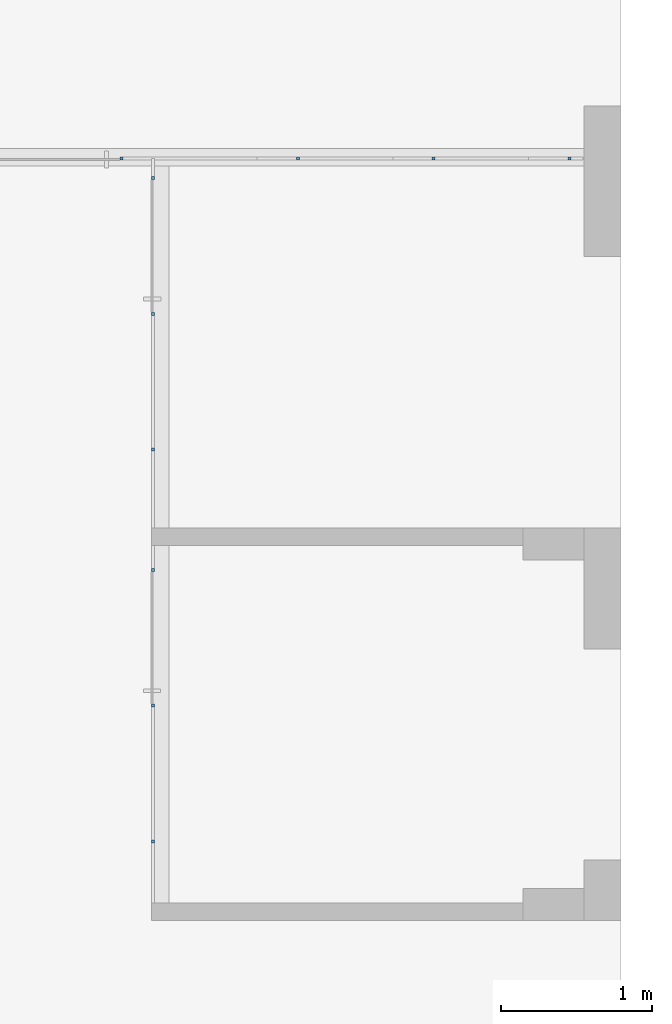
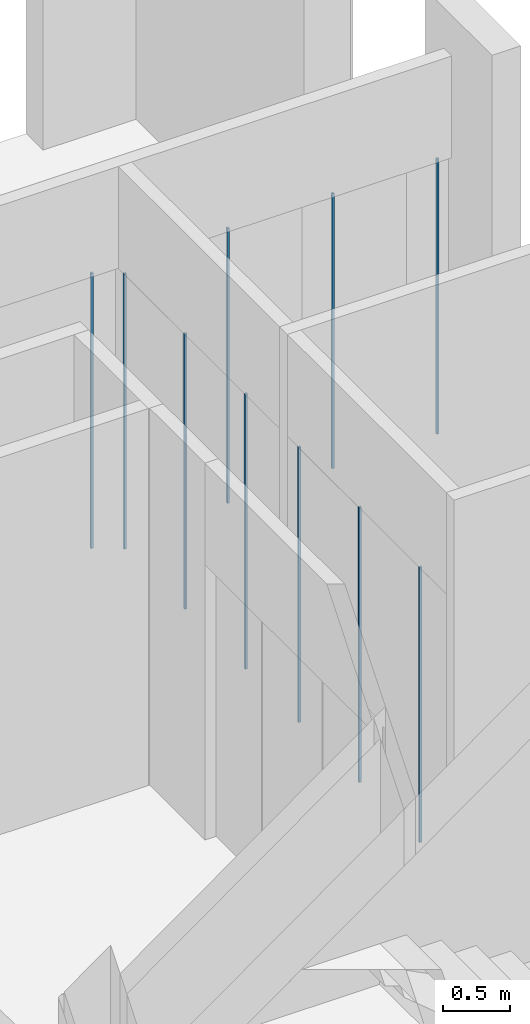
# One storey, part 3 of 14: 10 members, 3 elements without a shape of their own.
"""IFC2X3 building model written with IfcOpenShell, lengths in millimetres."""

import ifcopenshell
import ifcopenshell.guid

model = None  # the IFC model being written
_history = None  # IfcOwnerHistory: only IFC2X3 demands one
_inside = {}  # id of a spatial element -> (the spatial element, [elements in it])
_under = {}  # id of a project, library or spatial element -> (it, [spatial elements below it])
_declared = {}  # id of a project -> (the project, [libraries it declares])
_typed = {}  # id of a type object -> (the type object, [elements of that type])
_made_of = {}  # id of a material, layer set ... -> (it, [elements and type objects made of it])


def new_model(schema):
    """Start an empty IFC model of exactly this schema.

    Asked for "IFC4X3", IfcOpenShell would pick the latest addendum, in which some entities
    have other attributes; the version numbers below select the first issue.
    IFC2X3 requires an IfcOwnerHistory on every rooted entity: one is made here for all.
    """
    global model, _history
    if schema == "IFC4X3":
        model = ifcopenshell.file(schema_version=(4, 3, 0, 0))
    else:
        model = ifcopenshell.file(schema=schema)
    _inside.clear()
    _under.clear()
    _declared.clear()
    _typed.clear()
    _made_of.clear()
    _history = None
    if model.schema == "IFC2X3":
        org = make("IfcOrganization", Name="unknown")
        user = make(
            "IfcPersonAndOrganization",
            ThePerson=make("IfcPerson", FamilyName="unknown"),
            TheOrganization=org,
        )
        app = make(
            "IfcApplication",
            ApplicationDeveloper=org,
            Version="unknown",
            ApplicationFullName="unknown",
            ApplicationIdentifier="unknown",
        )
        _history = make(
            "IfcOwnerHistory",
            OwningUser=user,
            OwningApplication=app,
            ChangeAction="ADDED",
            CreationDate=0,
        )
    return model


def make(cls, **values):
    """One entity of the class cls with the attributes given. An attribute that is None is left unset."""
    return model.create_entity(
        cls, **{name: value for name, value in values.items() if value is not None}
    )


def entity(cls, *values):
    """Any entity or typed value of the class cls, its attributes in the order of the schema. None: left unset."""
    e = model.create_entity(cls)
    for i, value in enumerate(values):
        if value is not None:
            e[i] = value
    return e


def rooted(cls, **values):
    """An entity with a GlobalId (a new one), such as an element, a storey or a relation."""
    return make(cls, GlobalId=ifcopenshell.guid.new(), OwnerHistory=_history, **values)


def si_unit(unit_type, name, prefix=None):
    """IfcSIUnit, for example si_unit("LENGTHUNIT", "METRE", prefix="MILLI")."""
    return make("IfcSIUnit", UnitType=unit_type, Prefix=prefix, Name=name)


def converted_unit(unit_type, name, factor, base, dimensions=None, offset=None):
    """IfcConversionBasedUnit, such as the inch: factor (a typed value) times the base unit."""
    return make(
        "IfcConversionBasedUnit"
        if offset is None
        else "IfcConversionBasedUnitWithOffset",
        ConversionOffset=offset,
        Dimensions=None
        if dimensions is None
        else entity("IfcDimensionalExponents", *dimensions),
        UnitType=unit_type,
        Name=name,
        ConversionFactor=make(
            "IfcMeasureWithUnit", ValueComponent=factor, UnitComponent=base
        ),
    )


def derived_unit(unit_type, elements):
    """IfcDerivedUnit: a product of units, each with its exponent."""
    return make(
        "IfcDerivedUnit",
        Elements=[
            make("IfcDerivedUnitElement", Unit=unit, Exponent=power)
            for unit, power in elements
        ],
        UnitType=unit_type,
    )


def assignment(units):
    """IfcUnitAssignment: the units of a project."""
    return None if units is None else make("IfcUnitAssignment", Units=units)


def point(xyz):
    """IfcCartesianPoint."""
    return None if xyz is None else make("IfcCartesianPoint", Coordinates=xyz)


def direction(xyz):
    """IfcDirection."""
    return None if xyz is None else make("IfcDirection", DirectionRatios=xyz)


def frame(location, z_axis=None, x_axis=None):
    """IfcAxis2Placement3D, a coordinate frame: its origin and axes. An axis left out is left unset."""
    return make(
        "IfcAxis2Placement3D",
        Location=point(location),
        Axis=direction(z_axis),
        RefDirection=direction(x_axis),
    )


def frame_2d(location, x_axis=None):
    """IfcAxis2Placement2D, a coordinate frame in the plane: its origin and x axis."""
    return make(
        "IfcAxis2Placement2D", Location=point(location), RefDirection=direction(x_axis)
    )


def origin():
    """The frame at (0, 0, 0) with its axes left unset."""
    return frame((0.0, 0.0, 0.0))


def origin_2d_with_axis():
    """The frame at (0, 0) in the plane with the x axis (1, 0) written out."""
    return frame_2d((0.0, 0.0), x_axis=(1.0, 0.0))


def place(relative_to, where):
    """IfcLocalPlacement: puts the frame where relative to a parent placement (None: the world)."""
    return make(
        "IfcLocalPlacement", PlacementRelTo=relative_to, RelativePlacement=where
    )


def context(
    kind, dimensions, precision=None, world=None, true_north=None, identifier=None
):
    """IfcGeometricRepresentationContext, for example the 3D "Model" context."""
    return make(
        "IfcGeometricRepresentationContext",
        ContextIdentifier=identifier,
        ContextType=kind,
        CoordinateSpaceDimension=dimensions,
        Precision=precision,
        WorldCoordinateSystem=world,
        TrueNorth=true_north,
    )


def subcontext(parent, identifier, kind, view, scale=None):
    """IfcGeometricRepresentationSubContext, for example "Body" below "Model"."""
    return make(
        "IfcGeometricRepresentationSubContext",
        ContextIdentifier=identifier,
        ContextType=kind,
        ParentContext=parent,
        TargetScale=scale,
        TargetView=view,
    )


def project(units=None, contexts=None):
    """IfcProject with its units and contexts."""
    return rooted(
        "IfcProject",
        Name="project",
        RepresentationContexts=contexts,
        UnitsInContext=assignment(units),
    )


def spatial(cls, under=None, at=None, **own):
    """A site, building, storey or space (cls), placed at a placement, below another one or the project."""
    s = rooted(cls, ObjectPlacement=at, **own)
    if under is not None:
        _under.setdefault(under.id(), (under, []))[1].append(s)
    return s


def profile(cls, at=None, kind="AREA", **sizes):
    """A parametric profile (cls). Its sizes go by their IFC names, for example OverallWidth=200.0."""
    return make(cls, ProfileType=kind, Position=at, **sizes)


def rectangle(**sizes):
    """IfcRectangleProfileDef."""
    return profile("IfcRectangleProfileDef", **sizes)


def extrude(swept, where, along, depth):
    """IfcExtrudedAreaSolid: the profile swept, set in the frame where, extruded along a direction by depth."""
    return make(
        "IfcExtrudedAreaSolid",
        SweptArea=swept,
        Position=where,
        ExtrudedDirection=direction(along),
        Depth=depth,
    )


def shape(context_of_items, identifier, shape_type, items):
    """IfcShapeRepresentation: the items that make up one representation, for example the "Body"."""
    return make(
        "IfcShapeRepresentation",
        ContextOfItems=context_of_items,
        RepresentationIdentifier=identifier,
        RepresentationType=shape_type,
        Items=items,
    )


def source(mapping_origin, context_of_items, identifier, shape_type, items):
    """IfcRepresentationMap: a shape defined once, which mapped items show again and again."""
    return make(
        "IfcRepresentationMap",
        MappingOrigin=mapping_origin,
        MappedRepresentation=shape(context_of_items, identifier, shape_type, items),
    )


def transform(
    local_origin,
    x_axis=None,
    y_axis=None,
    z_axis=None,
    scale=None,
    scale2=None,
    scale3=None,
    uniform=True,
):
    """IfcCartesianTransformationOperator3D, or its non-uniform kind. x_axis, y_axis, z_axis: its Axis1, 2, 3."""
    if uniform:
        return make(
            "IfcCartesianTransformationOperator3D",
            Axis1=direction(x_axis),
            Axis2=direction(y_axis),
            LocalOrigin=point(local_origin),
            Scale=scale,
            Axis3=direction(z_axis),
        )
    return make(
        "IfcCartesianTransformationOperator3DnonUniform",
        Axis1=direction(x_axis),
        Axis2=direction(y_axis),
        LocalOrigin=point(local_origin),
        Scale=scale,
        Axis3=direction(z_axis),
        Scale2=scale2,
        Scale3=scale3,
    )


def mapped(mapping_source, mapping_target):
    """IfcMappedItem: shows the shape of a source again, moved by a transform."""
    return make(
        "IfcMappedItem", MappingSource=mapping_source, MappingTarget=mapping_target
    )


def material(Name=None, Category=None):
    """IfcMaterial."""
    return make("IfcMaterial", Name=Name, Category=Category)


def made_of(thing, what):
    """Note that an element or type object is made of a material, layer set ...; save() writes the relation."""
    if what is not None:
        _made_of.setdefault(what.id(), (what, []))[1].append(thing)
    return thing


def type_object(cls, material=None, **own):
    """A type object (cls), such as IfcWallType, which elements share."""
    return made_of(rooted(cls, **own), material)


def type_shapes(of_type, sources):
    """Give a type object the sources (RepresentationMaps) that its elements show as mapped items."""
    of_type.RepresentationMaps = sources


def element(
    cls,
    number,
    at=None,
    inside=None,
    cuts=None,
    type_object=None,
    material=None,
    context=None,
    identifier="Body",
    shape_type=None,
    held_by="IfcProductDefinitionShape",
    body=None,
    shapes=None,
    **own,
):
    """One element of the class cls, such as IfcWall. Its Tag is "e" and its number.

    at: its placement. inside: the storey or other place that contains it. cuts: it is an
    opening in that element (IfcRelVoidsElement). A single representation is given by context,
    identifier, shape_type and body (its items); several are given by shapes. held_by: the class
    of the entity that holds the representations. save() writes the other relations.
    """
    e = rooted(cls, Tag="e%d" % number, ObjectPlacement=at, **own)
    if body is not None:
        shapes = [shape(context, identifier, shape_type, body)]
    if shapes is not None:
        e.Representation = make(held_by, Representations=shapes)
    if inside is not None:
        _inside.setdefault(inside.id(), (inside, []))[1].append(e)
    if cuts is not None:
        rooted(
            "IfcRelVoidsElement", RelatingBuildingElement=cuts, RelatedOpeningElement=e
        )
    if type_object is not None:
        _typed.setdefault(type_object.id(), (type_object, []))[1].append(e)
    return made_of(e, material)


def aggregate(whole, parts):
    """IfcRelAggregates: a whole, such as a stair, and the parts it consists of."""
    return rooted("IfcRelAggregates", RelatingObject=whole, RelatedObjects=parts)


def save(model, path):
    """Write the relations noted so far, then the file.

    IfcRelAggregates (storeys below a building ...), IfcRelContainedInSpatialStructure (elements
    in a storey), IfcRelDefinesByType, IfcRelAssociatesMaterial and IfcRelDeclares: one each for
    every whole, place, type object, material and project.
    """
    for whole, parts in _under.values():
        aggregate(whole, parts)
    for where, things in _inside.values():
        rooted(
            "IfcRelContainedInSpatialStructure",
            RelatedElements=things,
            RelatingStructure=where,
        )
    for kind, things in _typed.values():
        rooted("IfcRelDefinesByType", RelatedObjects=things, RelatingType=kind)
    for what, things in _made_of.values():
        rooted("IfcRelAssociatesMaterial", RelatedObjects=things, RelatingMaterial=what)
    for by, libraries in _declared.values():
        rooted("IfcRelDeclares", RelatingContext=by, RelatedDefinitions=libraries)
    model.write(path)


model = new_model("IFC2X3")

# Units and contexts
model_context = context("Model", 3, precision=0.01, world=origin(), true_north=direction((6.12303176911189e-17, 1.0)))
body_context = subcontext(model_context, "Body", "Model", "MODEL_VIEW")
ifc_project = project(units=[si_unit("LENGTHUNIT", "METRE", prefix="MILLI"), si_unit("AREAUNIT", "SQUARE_METRE"), si_unit("VOLUMEUNIT", "CUBIC_METRE"), converted_unit("PLANEANGLEUNIT", "DEGREE", entity("IfcRatioMeasure", 0.0174532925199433), si_unit("PLANEANGLEUNIT", "RADIAN"), dimensions=[0, 0, 0, 0, 0, 0, 0]), si_unit("MASSUNIT", "GRAM", prefix="KILO"), derived_unit("MASSDENSITYUNIT", [(si_unit("MASSUNIT", "GRAM", prefix="KILO"), 1), (si_unit("LENGTHUNIT", "METRE"), -3)]), si_unit("TIMEUNIT", "SECOND"), si_unit("FREQUENCYUNIT", "HERTZ"), si_unit("THERMODYNAMICTEMPERATUREUNIT", "DEGREE_CELSIUS"), derived_unit("THERMALTRANSMITTANCEUNIT", [(si_unit("MASSUNIT", "GRAM", prefix="KILO"), 1), (si_unit("THERMODYNAMICTEMPERATUREUNIT", "KELVIN"), -1), (si_unit("TIMEUNIT", "SECOND"), -3)]), derived_unit("VOLUMETRICFLOWRATEUNIT", [(si_unit("LENGTHUNIT", "METRE"), 3), (si_unit("TIMEUNIT", "SECOND"), -1)]), si_unit("ELECTRICCURRENTUNIT", "AMPERE"), si_unit("ELECTRICVOLTAGEUNIT", "VOLT"), si_unit("POWERUNIT", "WATT"), si_unit("FORCEUNIT", "NEWTON", prefix="KILO"), si_unit("ILLUMINANCEUNIT", "LUX"), si_unit("LUMINOUSFLUXUNIT", "LUMEN"), si_unit("LUMINOUSINTENSITYUNIT", "CANDELA"), derived_unit("USERDEFINED", [(si_unit("MASSUNIT", "GRAM", prefix="KILO"), -1), (si_unit("LENGTHUNIT", "METRE"), -2), (si_unit("TIMEUNIT", "SECOND"), 3), (si_unit("LUMINOUSFLUXUNIT", "LUMEN"), 1)]), derived_unit("LINEARVELOCITYUNIT", [(si_unit("LENGTHUNIT", "METRE"), 1), (si_unit("TIMEUNIT", "SECOND"), -1)]), si_unit("PRESSUREUNIT", "PASCAL"), derived_unit("USERDEFINED", [(si_unit("LENGTHUNIT", "METRE"), -2), (si_unit("MASSUNIT", "GRAM", prefix="KILO"), 1), (si_unit("TIMEUNIT", "SECOND"), -2)])], contexts=[model_context])

# Site, building, storey
site_placement = place(None, frame((-151.875543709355, 2715.0, 0.0)))
site = spatial("IfcSite", under=ifc_project, at=site_placement, Name="Surface", CompositionType="ELEMENT")
building_placement = place(site_placement, origin())
building = spatial("IfcBuilding", under=site, at=building_placement, CompositionType="ELEMENT")
storey_placement = place(building_placement, frame((0.0, 0.0, 3875.0)))
storey = spatial("IfcBuildingStorey", under=building, at=storey_placement, Name="uus 2 korrus", CompositionType="ELEMENT", Elevation=3875.00000000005)

# Curtain wall, members
curtain_wall_type_1 = type_object("IfcCurtainWallType", Name="Curtain Wall:Klaassein KLS-15", PredefinedType="NOTDEFINED")
curtain_wall_1_placement = place(storey_placement, frame((0.0, 0.0, -3875.0)))
curtain_wall_1 = element("IfcCurtainWall", 1, at=curtain_wall_1_placement, inside=storey, type_object=curtain_wall_type_1, Name="Curtain Wall:Klaassein KLS-15", ObjectType="Curtain Wall:Klaassein KLS-15")
ifc_material = material(Name="__Uks_hele tamm")
member_type = type_object("IfcMemberType", Name="20 x 20mm", PredefinedType="MEMBER")
shared_shape = source(origin(), body_context, "Body", "SweptSolid", [
    extrude(rectangle(XDim=20.0, YDim=20.0, at=origin_2d_with_axis()), frame((0.0, 0.0, -2500.0), z_axis=(0.0, 0.0, 1.0), x_axis=(0.0, -1.0, 0.0)), (0.0, 0.0, 1.0), 2500.00000000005),
])
type_shapes(member_type, [shared_shape])
member_1_placement = place(storey_placement, frame((35331.3161980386, 21659.9585633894, 0.0), z_axis=(0.0, 0.0, -1.0), x_axis=(1.0, 0.0, 0.0)))
member_1 = element("IfcMember", 2, at=member_1_placement, type_object=member_type, material=ifc_material, Name="Rectangular Mullion:20 x 20mm", ObjectType="20 x 20mm", context=body_context, shape_type="MappedRepresentation", body=[
    mapped(shared_shape, transform((0.0, 0.0, 0.0), scale=1.0)),
])
member_2_placement = place(storey_placement, frame((36501.6162685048, 21659.9585633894, 0.0), z_axis=(0.0, 0.0, -1.0), x_axis=(1.0, 0.0, 0.0)))
member_2 = element("IfcMember", 3, at=member_2_placement, type_object=member_type, material=ifc_material, Name="Rectangular Mullion:20 x 20mm", ObjectType="20 x 20mm", context=body_context, shape_type="MappedRepresentation", body=[
    mapped(shared_shape, transform((0.0, 0.0, 0.0), scale=1.0)),
])
member_3_placement = place(storey_placement, frame((37401.6162685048, 21659.9585633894, 0.0), z_axis=(0.0, 0.0, -1.0), x_axis=(1.0, 0.0, 0.0)))
member_3 = element("IfcMember", 4, at=member_3_placement, type_object=member_type, material=ifc_material, Name="Rectangular Mullion:20 x 20mm", ObjectType="20 x 20mm", context=body_context, shape_type="MappedRepresentation", body=[
    mapped(shared_shape, transform((0.0, 0.0, 0.0), scale=1.0)),
])
member_4_placement = place(storey_placement, frame((38301.6162685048, 21659.9585633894, 0.0), z_axis=(0.0, 0.0, -1.0), x_axis=(1.0, 0.0, 0.0)))
member_4 = element("IfcMember", 5, at=member_4_placement, type_object=member_type, material=ifc_material, Name="Rectangular Mullion:20 x 20mm", ObjectType="20 x 20mm", context=body_context, shape_type="MappedRepresentation", body=[
    mapped(shared_shape, transform((0.0, 0.0, 0.0), scale=1.0)),
])
aggregate(curtain_wall_1, [member_1, member_2, member_3, member_4])

curtain_wall_type_2 = type_object("IfcCurtainWallType", Name="Curtain Wall:Klaassein KLS-14", PredefinedType="NOTDEFINED")
curtain_wall_2_placement = place(storey_placement, frame((0.0, 0.0, -3875.0)))
curtain_wall_2 = element("IfcCurtainWall", 6, at=curtain_wall_2_placement, inside=storey, type_object=curtain_wall_type_2, Name="Curtain Wall:Klaassein KLS-14", ObjectType="Curtain Wall:Klaassein KLS-14")
member_5_placement = place(storey_placement, frame((35541.6162681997, 21530.2792834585, 0.0), z_axis=(0.0, 0.0, -1.0), x_axis=(0.0, -1.0, 0.0)))
member_5 = element("IfcMember", 7, at=member_5_placement, type_object=member_type, material=ifc_material, Name="Rectangular Mullion:20 x 20mm", ObjectType="20 x 20mm", context=body_context, shape_type="MappedRepresentation", body=[
    mapped(shared_shape, transform((0.0, 0.0, 0.0), scale=1.0)),
])
member_6_placement = place(storey_placement, frame((35541.6162681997, 20630.2792834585, 0.0), z_axis=(0.0, 0.0, -1.0), x_axis=(0.0, -1.0, 0.0)))
member_6 = element("IfcMember", 8, at=member_6_placement, type_object=member_type, material=ifc_material, Name="Rectangular Mullion:20 x 20mm", ObjectType="20 x 20mm", context=body_context, shape_type="MappedRepresentation", body=[
    mapped(shared_shape, transform((0.0, 0.0, 0.0), scale=1.0)),
])
member_7_placement = place(storey_placement, frame((35541.6162681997, 19730.2792834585, 0.0), z_axis=(0.0, 0.0, -1.0), x_axis=(0.0, -1.0, 0.0)))
member_7 = element("IfcMember", 9, at=member_7_placement, type_object=member_type, material=ifc_material, Name="Rectangular Mullion:20 x 20mm", ObjectType="20 x 20mm", context=body_context, shape_type="MappedRepresentation", body=[
    mapped(shared_shape, transform((0.0, 0.0, 0.0), scale=1.0)),
])
aggregate(curtain_wall_2, [member_5, member_6, member_7])

curtain_wall_type_3 = type_object("IfcCurtainWallType", Name="Curtain Wall:Klaassein KLS-13", PredefinedType="NOTDEFINED")
curtain_wall_3_placement = place(storey_placement, frame((0.0, 0.0, -3875.0)))
curtain_wall_3 = element("IfcCurtainWall", 10, at=curtain_wall_3_placement, inside=storey, type_object=curtain_wall_type_3, Name="Curtain Wall:Klaassein KLS-13", ObjectType="Curtain Wall:Klaassein KLS-13")
member_8_placement = place(storey_placement, frame((35540.8324752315, 18934.0897464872, 0.0), z_axis=(0.0, 0.0, -1.0), x_axis=(0.0, -1.0, 0.0)))
member_8 = element("IfcMember", 11, at=member_8_placement, type_object=member_type, material=ifc_material, Name="Rectangular Mullion:20 x 20mm", ObjectType="20 x 20mm", context=body_context, shape_type="MappedRepresentation", body=[
    mapped(shared_shape, transform((0.0, 0.0, 0.0), scale=1.0)),
])
member_9_placement = place(storey_placement, frame((35540.8324752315, 18034.0897464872, 0.0), z_axis=(0.0, 0.0, -1.0), x_axis=(0.0, -1.0, 0.0)))
member_9 = element("IfcMember", 12, at=member_9_placement, type_object=member_type, material=ifc_material, Name="Rectangular Mullion:20 x 20mm", ObjectType="20 x 20mm", context=body_context, shape_type="MappedRepresentation", body=[
    mapped(shared_shape, transform((0.0, 0.0, 0.0), scale=1.0)),
])
member_10_placement = place(storey_placement, frame((35540.8324752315, 17134.0897464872, 0.0), z_axis=(0.0, 0.0, -1.0), x_axis=(0.0, -1.0, 0.0)))
member_10 = element("IfcMember", 13, at=member_10_placement, type_object=member_type, material=ifc_material, Name="Rectangular Mullion:20 x 20mm", ObjectType="20 x 20mm", context=body_context, shape_type="MappedRepresentation", body=[
    mapped(shared_shape, transform((0.0, 0.0, 0.0), scale=1.0)),
])
aggregate(curtain_wall_3, [member_8, member_9, member_10])

save(model, "model.ifc")
